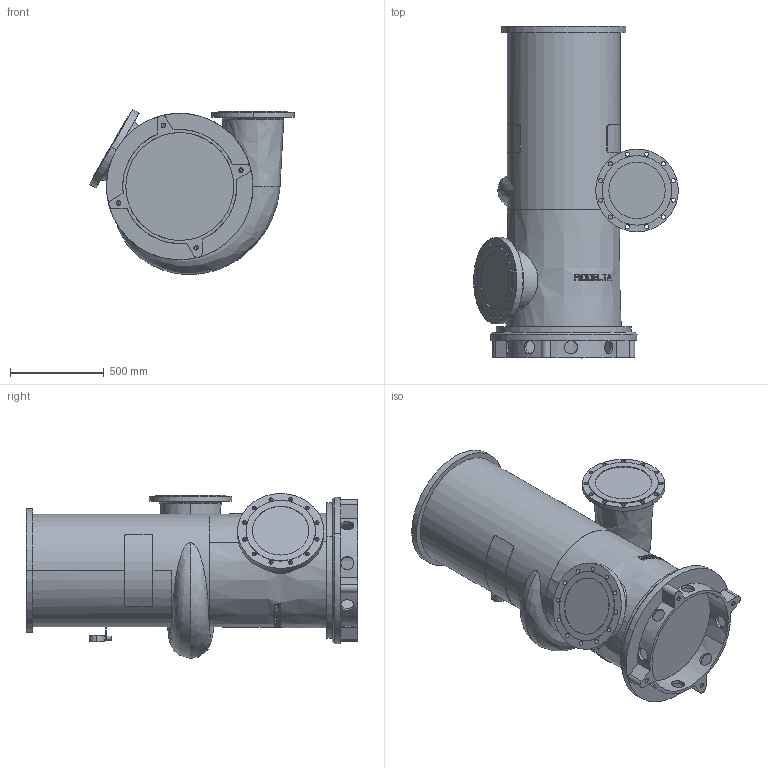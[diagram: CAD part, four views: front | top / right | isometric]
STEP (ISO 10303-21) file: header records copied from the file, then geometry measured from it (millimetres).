
FILE_DESCRIPTION((''),'2;1');
FILE_NAME('12-520_ASM','2024-08-06T',('Lyritlocal'),(''),'PRO/ENGINEER BY PARAMETRIC TECHNOLOGY CORPORATION, 2016360','PRO/ENGINEER BY PARAMETRIC TECHNOLOGY CORPORATION, 2016360','');
FILE_SCHEMA(('CONFIG_CONTROL_DESIGN'));
Length unit declared in the file: millimetre
Products named in the file (3): 12-520; 12-520_VOET; 12-520_ASM
Assembly tree (2 placements, depth 2):
  12-520_ASM
    12-520
    12-520_VOET
Bounding box: 1089.6 x 1766.5 x 877.62 mm (x, y, z)
Volume: 566586530 mm3; surface area: 6652634.1 mm2
Topology: 2 solids, 6 shells, 503 faces, 1366 edges, 900 vertices
Faces by surface type: plane 323, cylinder 138, cone 36, bspline 6
Entity records: 17785 total; most frequent: CARTESIAN_POINT 5428, ORIENTED_EDGE 2700, DIRECTION 2313, EDGE_CURVE 1358, VERTEX_POINT 900, AXIS2_PLACEMENT_3D 896, EDGE_LOOP 608, VECTOR 521
